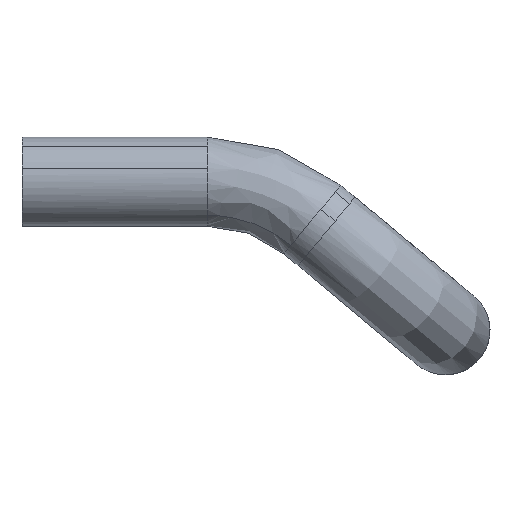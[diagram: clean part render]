
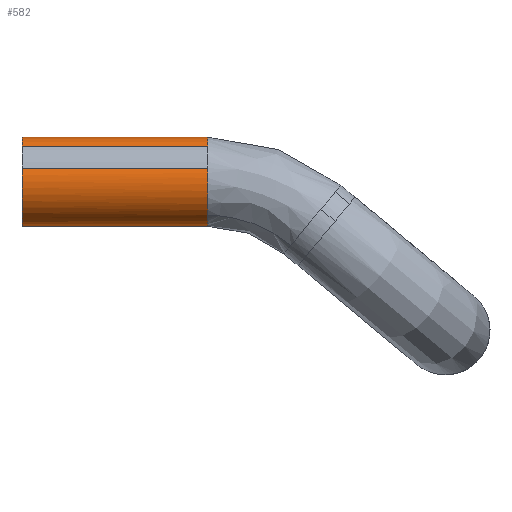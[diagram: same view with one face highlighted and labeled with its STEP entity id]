
A CAD part, left-side view. The second image highlights one B-rep face of the part: STEP entity #582.
In plain terms, the highlighted free-form (B-spline) face has degree [2, 1] with [9, 2] control points.
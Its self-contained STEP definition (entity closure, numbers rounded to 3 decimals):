
#412=CARTESIAN_POINT('',(-41.804,15.687,12.397));
#413=CARTESIAN_POINT('',(-40.571,15.687,13.325));
#414=CARTESIAN_POINT('',(-39.098,15.687,12.861));
#415=CARTESIAN_POINT('',(-36.237,15.687,11.959));
#416=CARTESIAN_POINT('',(-37.139,15.687,9.098));
#417=CARTESIAN_POINT('',(-38.041,15.687,6.237));
#418=CARTESIAN_POINT('',(-40.902,15.687,7.139));
#419=CARTESIAN_POINT('',(-43.763,15.687,8.041));
#420=CARTESIAN_POINT('',(-42.861,15.687,10.902));
#421=CARTESIAN_POINT('',(-41.804,28.82,12.397));
#422=CARTESIAN_POINT('',(-40.571,28.82,13.325));
#423=CARTESIAN_POINT('',(-39.098,28.82,12.861));
#424=CARTESIAN_POINT('',(-36.237,28.82,11.959));
#425=CARTESIAN_POINT('',(-37.139,28.82,9.098));
#426=CARTESIAN_POINT('',(-38.041,28.82,6.237));
#427=CARTESIAN_POINT('',(-40.902,28.82,7.139));
#428=CARTESIAN_POINT('',(-43.763,28.82,8.041));
#429=CARTESIAN_POINT('',(-42.861,28.82,10.902));
#437=(BOUNDED_SURFACE()B_SPLINE_SURFACE(2,1,((#412,#421),(#413,#422),(#414,#423),(#415,#424),(#416,#425),(#417,#426),(#418,#427),(#419,#428),(#420,#429)),.UNSPECIFIED.,.F.,.F.,.U.)B_SPLINE_SURFACE_WITH_KNOTS((3,2,2,2,3),(2,2),(0.0,2.982,7.953,12.923,17.894),(0.0,13.133),.UNSPECIFIED.)GEOMETRIC_REPRESENTATION_ITEM()RATIONAL_B_SPLINE_SURFACE(((0.859,0.859),(0.824,0.824),(1.0,1.0),(0.707,0.707),(1.0,1.0),(0.707,0.707),(1.0,1.0),(0.707,0.707),(1.0,1.0)))REPRESENTATION_ITEM('')SURFACE());
#438=CARTESIAN_POINT('',(-41.804,16.,12.397));
#439=VERTEX_POINT('',#438);
#440=CARTESIAN_POINT('',(-40.0,16.,13.0));
#441=VERTEX_POINT('',#440);
#442=CARTESIAN_POINT('',(-41.804,16.,12.397));
#443=CARTESIAN_POINT('',(-41.003,16.,13.));
#444=CARTESIAN_POINT('',(-40.0,16.,13.0));
#452=(BOUNDED_CURVE()B_SPLINE_CURVE(2,(#442,#443,#444),.UNSPECIFIED.,.F.,.U.)B_SPLINE_CURVE_WITH_KNOTS((3,3),(0.896,1.0),.UNSPECIFIED.)CURVE()GEOMETRIC_REPRESENTATION_ITEM()RATIONAL_B_SPLINE_CURVE((0.858,0.878,1.0))REPRESENTATION_ITEM(''));
#453=EDGE_CURVE('',#439,#441,#452,.T.);
#454=ORIENTED_EDGE('',*,*,#453,.T.);
#455=CARTESIAN_POINT('',(-37.628,16.,8.163));
#456=VERTEX_POINT('',#455);
#457=CARTESIAN_POINT('',(-40.0,16.,13.0));
#458=CARTESIAN_POINT('',(-37.0,16.,13.));
#459=CARTESIAN_POINT('',(-37.0,16.,10.0));
#460=CARTESIAN_POINT('',(-37.,16.,8.974));
#461=CARTESIAN_POINT('',(-37.628,16.,8.163));
#469=(BOUNDED_CURVE()B_SPLINE_CURVE(2,(#457,#458,#459,#460,#461),.UNSPECIFIED.,.F.,.U.)B_SPLINE_CURVE_WITH_KNOTS((3,2,3),(0.0,0.25,0.356),.UNSPECIFIED.)CURVE()GEOMETRIC_REPRESENTATION_ITEM()RATIONAL_B_SPLINE_CURVE((1.0,0.707,1.0,0.876,0.857))REPRESENTATION_ITEM(''));
#470=EDGE_CURVE('',#441,#456,#469,.T.);
#471=ORIENTED_EDGE('',*,*,#470,.T.);
#472=CARTESIAN_POINT('',(-40.0,16.,7.0));
#473=VERTEX_POINT('',#472);
#474=CARTESIAN_POINT('',(-37.628,16.,8.163));
#475=CARTESIAN_POINT('',(-38.529,16.,7.));
#476=CARTESIAN_POINT('',(-40.0,16.,7.0));
#484=(BOUNDED_CURVE()B_SPLINE_CURVE(2,(#474,#475,#476),.UNSPECIFIED.,.F.,.U.)B_SPLINE_CURVE_WITH_KNOTS((3,3),(0.356,0.5),.UNSPECIFIED.)CURVE()GEOMETRIC_REPRESENTATION_ITEM()RATIONAL_B_SPLINE_CURVE((0.857,0.831,1.0))REPRESENTATION_ITEM(''));
#485=EDGE_CURVE('',#456,#473,#484,.T.);
#486=ORIENTED_EDGE('',*,*,#485,.T.);
#487=CARTESIAN_POINT('',(-41.97,16.,7.737));
#488=VERTEX_POINT('',#487);
#489=CARTESIAN_POINT('',(-40.0,16.,7.0));
#490=CARTESIAN_POINT('',(-41.123,16.,7.));
#491=CARTESIAN_POINT('',(-41.97,16.,7.737));
#499=(BOUNDED_CURVE()B_SPLINE_CURVE(2,(#489,#490,#491),.UNSPECIFIED.,.F.,.U.)B_SPLINE_CURVE_WITH_KNOTS((3,3),(0.5,0.615),.UNSPECIFIED.)CURVE()GEOMETRIC_REPRESENTATION_ITEM()RATIONAL_B_SPLINE_CURVE((1.0,0.866,0.855))REPRESENTATION_ITEM(''));
#500=EDGE_CURVE('',#473,#488,#499,.T.);
#501=ORIENTED_EDGE('',*,*,#500,.T.);
#502=CARTESIAN_POINT('',(-42.861,16.,10.902));
#503=VERTEX_POINT('',#502);
#504=CARTESIAN_POINT('',(-41.97,16.,7.737));
#505=CARTESIAN_POINT('',(-43.0,16.,8.634));
#506=CARTESIAN_POINT('',(-43.0,16.,10.0));
#507=CARTESIAN_POINT('',(-43.0,16.,10.462));
#508=CARTESIAN_POINT('',(-42.861,16.,10.902));
#516=(BOUNDED_CURVE()B_SPLINE_CURVE(2,(#504,#505,#506,#507,#508),.UNSPECIFIED.,.F.,.U.)B_SPLINE_CURVE_WITH_KNOTS((3,2,3),(0.615,0.75,0.801),.UNSPECIFIED.)CURVE()GEOMETRIC_REPRESENTATION_ITEM()RATIONAL_B_SPLINE_CURVE((0.855,0.841,1.0,0.94,0.905))REPRESENTATION_ITEM(''));
#517=EDGE_CURVE('',#488,#503,#516,.T.);
#518=ORIENTED_EDGE('',*,*,#517,.T.);
#519=CARTESIAN_POINT('',(-42.861,28.5,10.902));
#520=VERTEX_POINT('',#519);
#521=CARTESIAN_POINT('',(-42.861,16.,10.902));
#522=CARTESIAN_POINT('',(-42.861,28.5,10.902));
#523=QUASI_UNIFORM_CURVE('',1,(#521,#522),.UNSPECIFIED.,.F.,.U.);
#524=EDGE_CURVE('',#503,#520,#523,.T.);
#525=ORIENTED_EDGE('',*,*,#524,.T.);
#526=CARTESIAN_POINT('',(-40.0,28.5,7.0));
#527=VERTEX_POINT('',#526);
#528=CARTESIAN_POINT('',(-40.0,28.5,7.0));
#529=CARTESIAN_POINT('',(-43.,28.5,7.));
#530=CARTESIAN_POINT('',(-43.0,28.5,10.0));
#531=CARTESIAN_POINT('',(-43.,28.5,10.462));
#532=CARTESIAN_POINT('',(-42.861,28.5,10.902));
#540=(BOUNDED_CURVE()B_SPLINE_CURVE(2,(#528,#529,#530,#531,#532),.UNSPECIFIED.,.F.,.U.)B_SPLINE_CURVE_WITH_KNOTS((3,2,3),(0.5,0.75,0.801),.UNSPECIFIED.)CURVE()GEOMETRIC_REPRESENTATION_ITEM()RATIONAL_B_SPLINE_CURVE((1.0,0.707,1.0,0.94,0.905))REPRESENTATION_ITEM(''));
#541=EDGE_CURVE('',#527,#520,#540,.T.);
#542=ORIENTED_EDGE('',*,*,#541,.F.);
#543=CARTESIAN_POINT('',(-40.0,28.5,13.0));
#544=VERTEX_POINT('',#543);
#545=CARTESIAN_POINT('',(-40.0,28.5,13.0));
#546=CARTESIAN_POINT('',(-37.0,28.5,13.));
#547=CARTESIAN_POINT('',(-37.0,28.5,10.0));
#548=CARTESIAN_POINT('',(-37.0,28.5,7.));
#549=CARTESIAN_POINT('',(-40.0,28.5,7.0));
#557=(BOUNDED_CURVE()B_SPLINE_CURVE(2,(#545,#546,#547,#548,#549),.UNSPECIFIED.,.F.,.U.)B_SPLINE_CURVE_WITH_KNOTS((3,2,3),(0.0,0.25,0.5),.UNSPECIFIED.)CURVE()GEOMETRIC_REPRESENTATION_ITEM()RATIONAL_B_SPLINE_CURVE((1.0,0.707,1.0,0.707,1.0))REPRESENTATION_ITEM(''));
#558=EDGE_CURVE('',#544,#527,#557,.T.);
#559=ORIENTED_EDGE('',*,*,#558,.F.);
#560=CARTESIAN_POINT('',(-41.804,28.5,12.397));
#561=VERTEX_POINT('',#560);
#562=CARTESIAN_POINT('',(-41.804,28.5,12.397));
#563=CARTESIAN_POINT('',(-41.003,28.5,13.));
#564=CARTESIAN_POINT('',(-40.0,28.5,13.0));
#572=(BOUNDED_CURVE()B_SPLINE_CURVE(2,(#562,#563,#564),.UNSPECIFIED.,.F.,.U.)B_SPLINE_CURVE_WITH_KNOTS((3,3),(0.896,1.0),.UNSPECIFIED.)CURVE()GEOMETRIC_REPRESENTATION_ITEM()RATIONAL_B_SPLINE_CURVE((0.858,0.878,1.0))REPRESENTATION_ITEM(''));
#573=EDGE_CURVE('',#561,#544,#572,.T.);
#574=ORIENTED_EDGE('',*,*,#573,.F.);
#575=CARTESIAN_POINT('',(-41.804,16.,12.397));
#576=CARTESIAN_POINT('',(-41.804,28.5,12.397));
#577=QUASI_UNIFORM_CURVE('',1,(#575,#576),.UNSPECIFIED.,.F.,.U.);
#578=EDGE_CURVE('',#439,#561,#577,.T.);
#579=ORIENTED_EDGE('',*,*,#578,.F.);
#580=EDGE_LOOP('',(#454,#471,#486,#501,#518,#525,#542,#559,#574,#579));
#581=FACE_OUTER_BOUND('',#580,.T.);
#582=ADVANCED_FACE('',(#581),#437,.T.);
